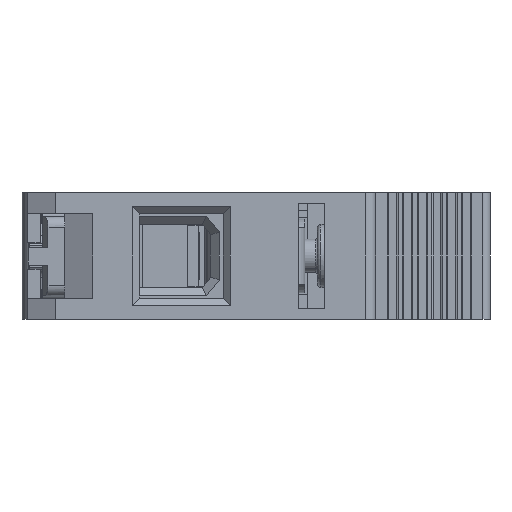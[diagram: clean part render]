
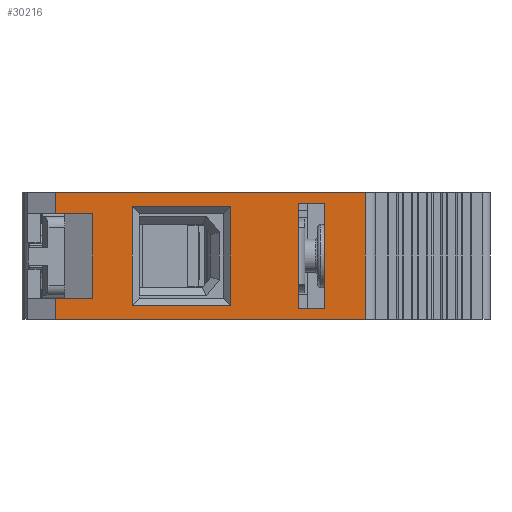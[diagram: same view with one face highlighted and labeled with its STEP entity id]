
A CAD part, left-side view. The second image highlights one B-rep face of the part: STEP entity #30216.
In plain terms, the highlighted planar face has unit normal (-1, 0, 0).
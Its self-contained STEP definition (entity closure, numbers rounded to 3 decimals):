
#1734=DIRECTION('',(0.,1.,0.));
#1735=VECTOR('',#1734,44.1);
#1736=CARTESIAN_POINT('',(0.001,1.5,0.));
#1737=LINE('',#1736,#1735);
#2994=DIRECTION('',(0.,0.,1.));
#2995=VECTOR('',#2994,18.);
#2996=CARTESIAN_POINT('',(0.001,1.5,-18.));
#2997=LINE('',#2996,#2995);
#3002=DIRECTION('',(0.,1.,0.));
#3003=VECTOR('',#3002,44.1);
#3004=CARTESIAN_POINT('',(0.001,1.5,-18.));
#3005=LINE('',#3004,#3003);
#3006=DIRECTION('',(0.,0.,1.));
#3007=VECTOR('',#3006,12.);
#3008=CARTESIAN_POINT('',(0.,40.3,-15.));
#3009=LINE('',#3008,#3007);
#3010=DIRECTION('',(0.,1.,0.));
#3011=VECTOR('',#3010,5.3);
#3012=CARTESIAN_POINT('',(0.,40.3,-3.));
#3013=LINE('',#3012,#3011);
#3014=DIRECTION('',(0.,0.,1.));
#3015=VECTOR('',#3014,3.);
#3016=CARTESIAN_POINT('',(0.,45.6,-3.));
#3017=LINE('',#3016,#3015);
#3018=DIRECTION('',(0.,0.,-1.));
#3019=VECTOR('',#3018,15.);
#3020=CARTESIAN_POINT('',(0.001,10.95,-1.5));
#3021=LINE('',#3020,#3019);
#3022=DIRECTION('',(0.,1.,0.));
#3023=VECTOR('',#3022,3.6);
#3024=CARTESIAN_POINT('',(0.001,7.35,-1.5));
#3025=LINE('',#3024,#3023);
#3026=DIRECTION('',(0.,-1.,0.));
#3027=VECTOR('',#3026,14.);
#3028=CARTESIAN_POINT('',(0.,34.7,-16.));
#3029=LINE('',#3028,#3027);
#3030=DIRECTION('',(0.,0.,1.));
#3031=VECTOR('',#3030,14.);
#3032=CARTESIAN_POINT('',(0.001,20.7,-16.));
#3033=LINE('',#3032,#3031);
#3034=DIRECTION('',(0.,1.,0.));
#3035=VECTOR('',#3034,14.);
#3036=CARTESIAN_POINT('',(0.001,20.7,-2.));
#3037=LINE('',#3036,#3035);
#3038=DIRECTION('',(0.,0.,-1.));
#3039=VECTOR('',#3038,3.);
#3040=CARTESIAN_POINT('',(0.,45.6,-15.));
#3041=LINE('',#3040,#3039);
#3042=DIRECTION('',(0.,1.,0.));
#3043=VECTOR('',#3042,5.3);
#3044=CARTESIAN_POINT('',(0.,40.3,-15.));
#3045=LINE('',#3044,#3043);
#7568=DIRECTION('',(0.,1.,0.));
#7569=VECTOR('',#7568,3.6);
#7570=CARTESIAN_POINT('',(0.001,7.35,-16.5));
#7571=LINE('',#7570,#7569);
#8128=DIRECTION('',(0.,0.,1.));
#8129=VECTOR('',#8128,14.);
#8130=CARTESIAN_POINT('',(0.,34.7,-16.));
#8131=LINE('',#8130,#8129);
#9287=DIRECTION('',(0.,0.,-1.));
#9288=VECTOR('',#9287,15.);
#9289=CARTESIAN_POINT('',(0.001,7.35,-1.5));
#9290=LINE('',#9289,#9288);
#20914=CARTESIAN_POINT('',(0.001,1.5,-18.));
#20916=VERTEX_POINT('',#20914);
#21029=CARTESIAN_POINT('',(0.001,1.5,0.));
#21031=VERTEX_POINT('',#21029);
#21032=CARTESIAN_POINT('',(0.,45.6,0.));
#21033=VERTEX_POINT('',#21032);
#21946=CARTESIAN_POINT('',(0.001,10.95,-1.5));
#21947=VERTEX_POINT('',#21946);
#21948=CARTESIAN_POINT('',(0.001,7.35,-1.5));
#21949=VERTEX_POINT('',#21948);
#22125=CARTESIAN_POINT('',(0.,34.7,-16.));
#22126=VERTEX_POINT('',#22125);
#22127=CARTESIAN_POINT('',(0.,34.7,-2.));
#22128=VERTEX_POINT('',#22127);
#22129=CARTESIAN_POINT('',(0.001,20.7,-16.));
#22130=VERTEX_POINT('',#22129);
#22131=CARTESIAN_POINT('',(0.,40.3,-3.));
#22132=CARTESIAN_POINT('',(0.,45.6,-3.));
#22133=VERTEX_POINT('',#22131);
#22134=VERTEX_POINT('',#22132);
#22135=CARTESIAN_POINT('',(0.001,20.7,-2.));
#22136=VERTEX_POINT('',#22135);
#24346=CARTESIAN_POINT('',(0.,45.6,-18.));
#24347=VERTEX_POINT('',#24346);
#25079=CARTESIAN_POINT('',(0.,45.6,-15.));
#25080=VERTEX_POINT('',#25079);
#25539=CARTESIAN_POINT('',(0.001,10.95,-16.5));
#25540=VERTEX_POINT('',#25539);
#25541=CARTESIAN_POINT('',(0.,40.3,-15.));
#25542=VERTEX_POINT('',#25541);
#25606=CARTESIAN_POINT('',(0.001,7.35,-16.5));
#25608=VERTEX_POINT('',#25606);
#30176=CARTESIAN_POINT('',(0.,50.4,-18.));
#30177=DIRECTION('',(-1.,0.,0.));
#30178=DIRECTION('',(0.,-1.,0.));
#30179=AXIS2_PLACEMENT_3D('',#30176,#30177,#30178);
#30180=PLANE('',#30179);
#30181=ORIENTED_EDGE('',*,*,#27745,.T.);
#30183=ORIENTED_EDGE('',*,*,#30182,.F.);
#30185=ORIENTED_EDGE('',*,*,#30184,.F.);
#30187=ORIENTED_EDGE('',*,*,#30186,.T.);
#30189=ORIENTED_EDGE('',*,*,#30188,.T.);
#30191=ORIENTED_EDGE('',*,*,#30190,.T.);
#30192=ORIENTED_EDGE('',*,*,#28225,.F.);
#30193=ORIENTED_EDGE('',*,*,#30169,.F.);
#30194=EDGE_LOOP('',(#30181,#30183,#30185,#30187,#30189,#30191,#30192,#30193));
#30195=FACE_OUTER_BOUND('',#30194,.F.);
#30197=ORIENTED_EDGE('',*,*,#30196,.T.);
#30199=ORIENTED_EDGE('',*,*,#30198,.F.);
#30201=ORIENTED_EDGE('',*,*,#30200,.F.);
#30203=ORIENTED_EDGE('',*,*,#30202,.T.);
#30204=EDGE_LOOP('',(#30197,#30199,#30201,#30203));
#30205=FACE_BOUND('',#30204,.F.);
#30207=ORIENTED_EDGE('',*,*,#30206,.T.);
#30209=ORIENTED_EDGE('',*,*,#30208,.T.);
#30211=ORIENTED_EDGE('',*,*,#30210,.T.);
#30213=ORIENTED_EDGE('',*,*,#30212,.F.);
#30214=EDGE_LOOP('',(#30207,#30209,#30211,#30213));
#30215=FACE_BOUND('',#30214,.F.);
#30216=ADVANCED_FACE('',(#30195,#30205,#30215),#30180,.T.);
#27745=EDGE_CURVE('',#20916,#24347,#3005,.T.);
#28225=EDGE_CURVE('',#21031,#21033,#1737,.T.);
#30169=EDGE_CURVE('',#20916,#21031,#2997,.T.);
#30182=EDGE_CURVE('',#25080,#24347,#3041,.T.);
#30184=EDGE_CURVE('',#25542,#25080,#3045,.T.);
#30186=EDGE_CURVE('',#25542,#22133,#3009,.T.);
#30188=EDGE_CURVE('',#22133,#22134,#3013,.T.);
#30190=EDGE_CURVE('',#22134,#21033,#3017,.T.);
#30196=EDGE_CURVE('',#21947,#25540,#3021,.T.);
#30198=EDGE_CURVE('',#25608,#25540,#7571,.T.);
#30200=EDGE_CURVE('',#21949,#25608,#9290,.T.);
#30202=EDGE_CURVE('',#21949,#21947,#3025,.T.);
#30206=EDGE_CURVE('',#22126,#22130,#3029,.T.);
#30208=EDGE_CURVE('',#22130,#22136,#3033,.T.);
#30210=EDGE_CURVE('',#22136,#22128,#3037,.T.);
#30212=EDGE_CURVE('',#22126,#22128,#8131,.T.);
